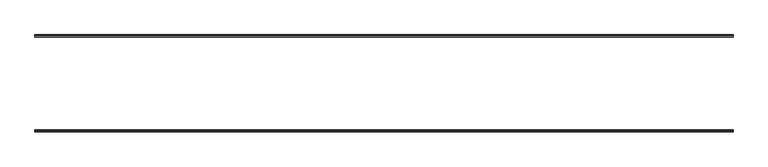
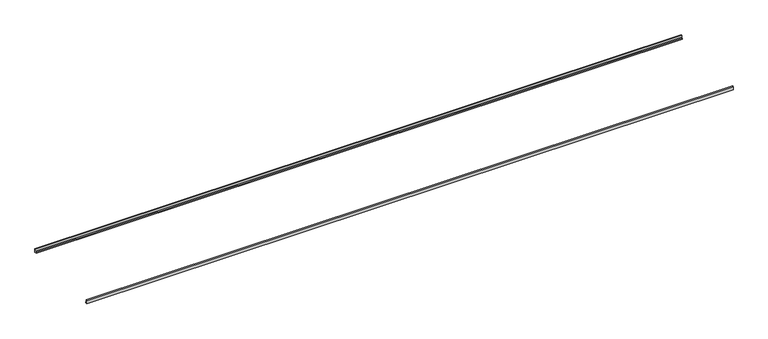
"""IFC4 building model written with IfcOpenShell, lengths in millimetres: proxy geometry, 방호벽 : 방호벽."""

from ifc_helpers import new_model, si_unit, frame, origin, place, context, project, spatial, polyline, outline, extrude, source, transform, mapped, element, save


def generic_models_b322bb03(model_context):
    return source(origin(), model_context, "Body", "SweptSolid", [
        extrude(outline(polyline([(10446.8602408, 14750.0), (10446.8602408, 14955.0), (10616.8602408, 15130.0), (10666.8602408, 15530.0), (10896.8602408, 15530.0), (10896.8602408, 14750.0), (10446.8602408, 14750.0)])), frame((-11780.366559, 0.0, 0.0), z_axis=(1.0, 0.0, 0.0), x_axis=(0.0, 1.0, 0.0)), (0.0, 0.0, 1.0), 150000.0),
        extrude(outline(polyline([(-9553.1397592, 14750.0), (-10003.1397592, 14750.0), (-10003.1397592, 15530.0), (-9773.1397592, 15530.0), (-9723.1397592, 15130.0), (-9553.1397592, 14955.0), (-9553.1397592, 14750.0)])), frame((-11780.366559, 0.0, 0.0), z_axis=(1.0, 0.0, 0.0), x_axis=(0.0, 1.0, 0.0)), (0.0, 0.0, 1.0), 150000.0),
    ])


if __name__ == "__main__":
    model = new_model("IFC4")
    model_context = context("Model", 3, world=origin())
    ifc_project = project(units=[si_unit("LENGTHUNIT", "METRE", prefix="MILLI")], contexts=[model_context])
    site = spatial("IfcSite", under=ifc_project)
    building = spatial("IfcBuilding", under=site)
    placement = place(None, origin())
    generic_models_shape = generic_models_b322bb03(model_context)
    element("IfcBuildingElementProxy", 1, Name="방호벽 : 방호벽", ObjectType="방호벽 : 방호벽", at=placement, inside=building, context=model_context, shape_type="MappedRepresentation", body=[
        mapped(generic_models_shape, transform((0.0, 0.0, 0.0), x_axis=(1.0, 0.0, 0.0), y_axis=(0.0, 1.0, 0.0), z_axis=(0.0, 0.0, 1.0))),
    ])
    save(model, "model.ifc")
